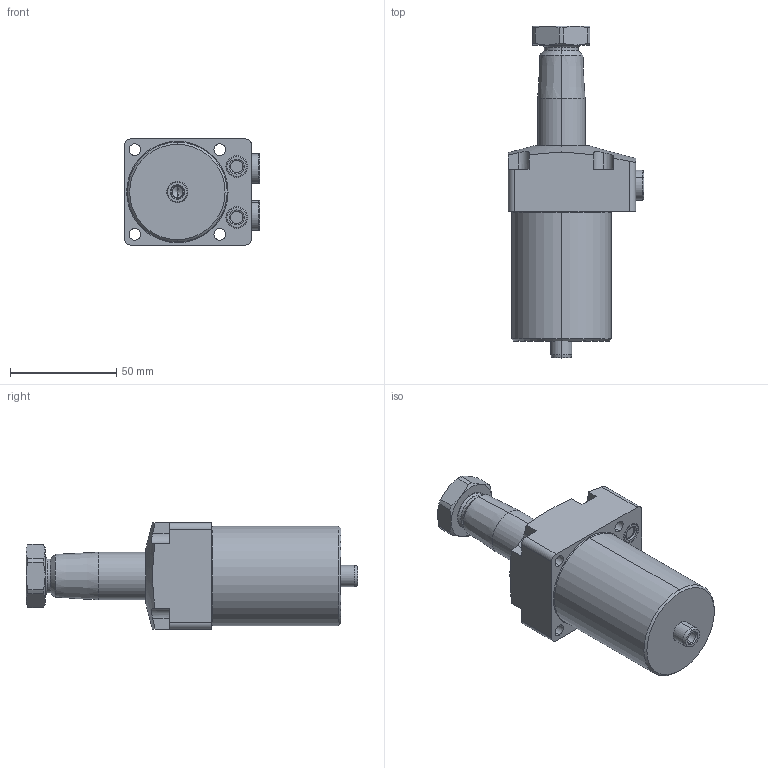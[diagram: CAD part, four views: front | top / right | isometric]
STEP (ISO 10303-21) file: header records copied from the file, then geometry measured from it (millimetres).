
FILE_DESCRIPTION(/* description */ (''),/* implementation_level */ '2;1');
FILE_NAME(/* name */ 'TRC04-RD.stp',/* time_stamp */ '2025-01-04T09:04:05+08:00',/* author */ (''),/* organization */ (''),/* preprocessor_version */ 'ST-DEVELOPER v16.7',/* originating_system */ 'SIEMENS PLM Software NX 12.0',/* authorisation */ '');
FILE_SCHEMA (('AUTOMOTIVE_DESIGN { 1 0 10303 214 3 1 1 1 }'));
Length unit declared in the file: millimetre
Products named in the file (5): TRC04-RD-04; TRC04-RD-03; TRC04-RD-02; TRC04-RD-01; TRC04-RD_stp
Assembly tree (5 placements, depth 2):
  TRC04-RD_stp
    TRC04-RD-01  x2
    TRC04-RD-02
    TRC04-RD-03
    TRC04-RD-04
Bounding box: 63.8 x 156.5 x 50 mm (x, y, z)
Volume: 203496.8 mm3; surface area: 38312.1 mm2
Topology: 5 solids, 7 shells, 219 faces, 501 edges, 309 vertices
Faces by surface type: cylinder 81, plane 69, cone 46, torus 22, sphere 1
Entity records: 5872 total; most frequent: CARTESIAN_POINT 1181, DIRECTION 1024, ORIENTED_EDGE 904, EDGE_CURVE 452, AXIS2_PLACEMENT_3D 422, VERTEX_POINT 281, EDGE_LOOP 227, CIRCLE 219
